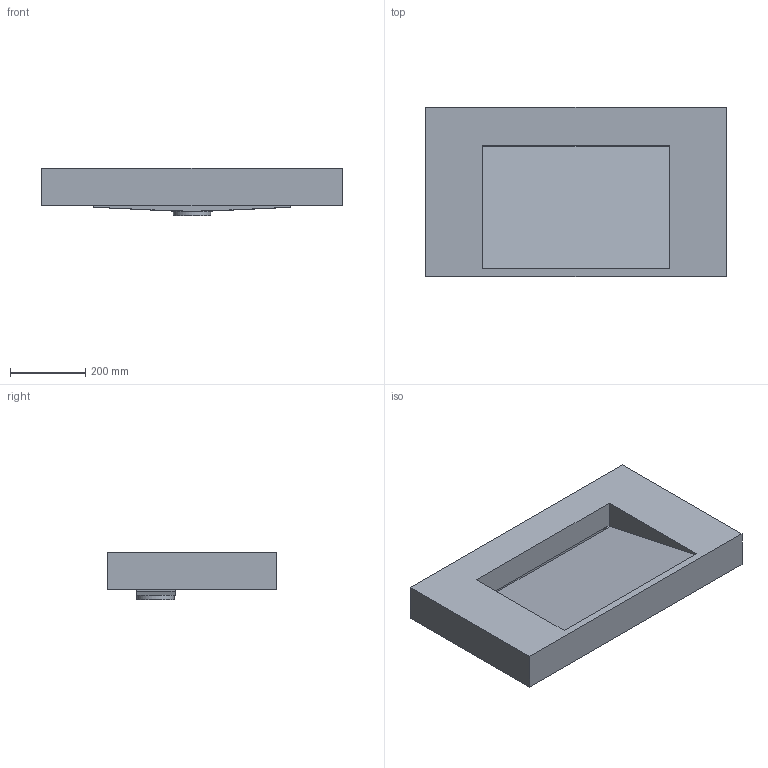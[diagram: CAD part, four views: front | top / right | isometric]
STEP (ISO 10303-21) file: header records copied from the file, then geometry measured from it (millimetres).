
FILE_DESCRIPTION(/* description */ (''),/* implementation_level */ '2;1');
FILE_NAME(/* name */ 'Wall-Hung Basin 800.stp',/* time_stamp */ '2025-10-25T10:50:43+08:00',/* author */ (''),/* organization */ (''),/* preprocessor_version */ 'ST-DEVELOPER v20',/* originating_system */ 'SIEMENS PLM Software NX2412.4001',/* authorisation */ '');
FILE_SCHEMA (('AUTOMOTIVE_DESIGN { 1 0 10303 214 3 1 1 1 }'));
Length unit declared in the file: millimetre
Products named in the file (1): Wall-Hung Basin 800
Bounding box: 800 x 450 x 127 mm (x, y, z)
Volume: 9480024.5 mm3; surface area: 1465693.6 mm2
Topology: 1 solids, 1 shells, 46 faces, 120 edges, 77 vertices
Faces by surface type: plane 37, cylinder 6, cone 3
Full cylindrical faces by diameter (mm): 45 x1, 100 x1
Entity records: 1418 total; most frequent: CARTESIAN_POINT 299, ORIENTED_EDGE 226, DIRECTION 212, EDGE_CURVE 113, LINE 92, VECTOR 92, VERTEX_POINT 75, AXIS2_PLACEMENT_3D 60
